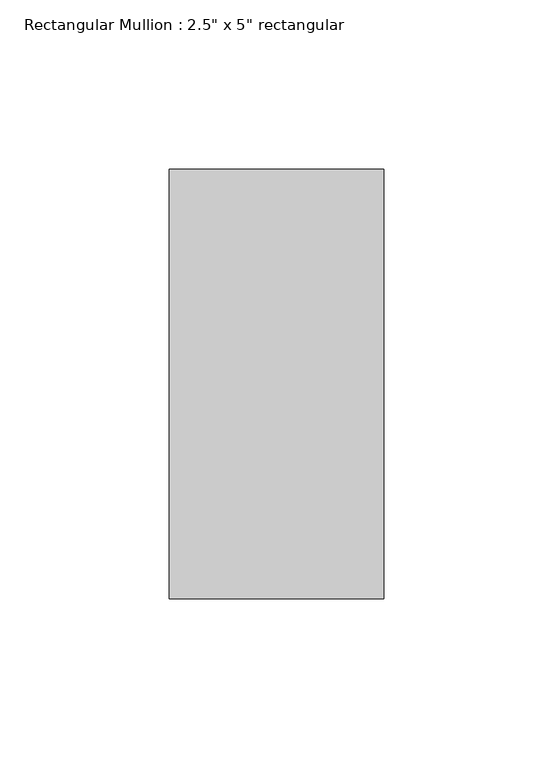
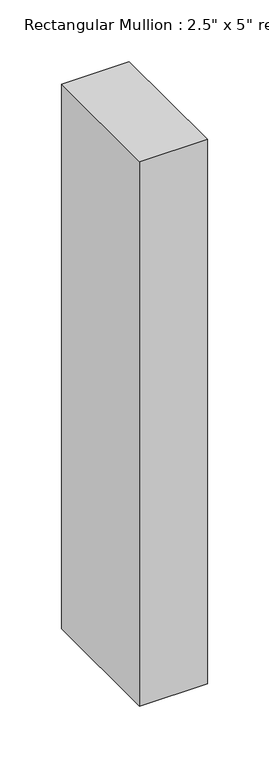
"""IFC4 building model written with IfcOpenShell, lengths in millimetres: member geometry."""

from ifc_helpers import new_model, si_unit, frame, origin, place, context, project, spatial, polyline, outline, extrude, source, transform, mapped, element, save


def member_4eae0b13(model_context):
    return source(origin(), model_context, "Body", "SweptSolid", [
        extrude(outline(polyline([(31.75, 63.5), (31.75, -63.5), (-31.75, -63.5), (-31.75, 63.5), (31.75, 63.5)])), frame((0.0, 0.0, -539.75), z_axis=(0.0, 0.0, 1.0), x_axis=(1.0, 0.0, 0.0)), (0.0, 0.0, 1.0), 539.75),
    ])


if __name__ == "__main__":
    model = new_model("IFC4")
    model_context = context("Model", 3, world=origin())
    ifc_project = project(units=[si_unit("LENGTHUNIT", "METRE", prefix="MILLI")], contexts=[model_context])
    site = spatial("IfcSite", under=ifc_project)
    building = spatial("IfcBuilding", under=site)
    placement = place(None, origin())
    member_shape = member_4eae0b13(model_context)
    element("IfcMember", 1, ObjectType="Rectangular Mullion : 2.5\" x 5\" rectangular", at=placement, inside=building, context=model_context, shape_type="MappedRepresentation", body=[
        mapped(member_shape, transform((0.0, 0.0, 0.0), x_axis=(1.0, 0.0, 0.0), y_axis=(0.0, 1.0, 0.0), z_axis=(0.0, 0.0, 1.0))),
    ])
    save(model, "model.ifc")
